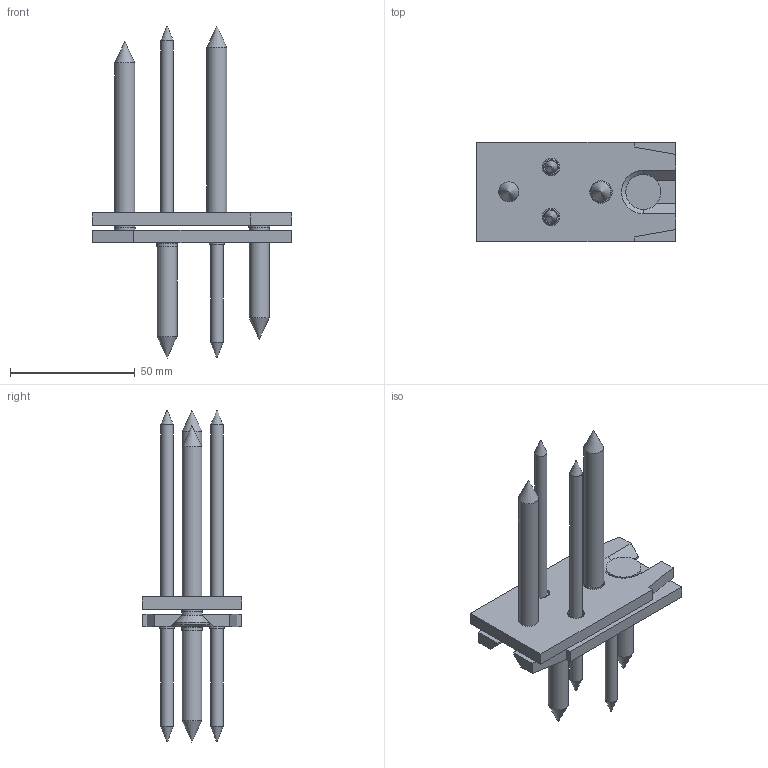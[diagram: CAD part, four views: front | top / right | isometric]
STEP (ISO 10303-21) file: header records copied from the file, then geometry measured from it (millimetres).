
FILE_DESCRIPTION(/* description */ ('Unknown'),/* implementation_level */ '2;1');
FILE_NAME(/* name */ 'RICON Edelstahl_80x40_EA',/* time_stamp */ '2022-02-08T10:42:40+01:00',/* author */ ('Unknown'),/* organization */ ('Unknown'),/* preprocessor_version */ 'ST-DEVELOPER v16.7',/* originating_system */ 'Solid Edge',/* authorisation */ 'Unknown');
FILE_SCHEMA (('AUTOMOTIVE_DESIGN {1 0 10303 214 3 1 1}'));
Length unit declared in the file: millimetre
Products named in the file (6): RICON_40x80_zusammenbau_mit Fase; RICON_40x80_mit Fase; SK_Schraube_5x50; SK_Schraube_8x50; SK_Schraube_5x80; SK_Schraube_8x80
Assembly tree (10 placements, depth 2):
  RICON_40x80_zusammenbau_mit Fase
    RICON_40x80_mit Fase  x2
    SK_Schraube_5x50  x2
    SK_Schraube_8x50  x2
    SK_Schraube_5x80  x2
    SK_Schraube_8x80  x2
Bounding box: 80 x 40 x 133.25 mm (x, y, z)
Volume: 43593.8 mm3; surface area: 25835.2 mm2
Topology: 10 solids, 10 shells, 108 faces, 232 edges, 148 vertices
Faces by surface type: plane 50, cylinder 34, cone 24
Full cylindrical faces by diameter (mm): 5 x4, 6 x4, 7 x4, 8 x6, 8.3 x4, 9.1 x2, 10 x2, 10.2 x2, 14 x4
Entity records: 1462 total; most frequent: DIRECTION 250, CARTESIAN_POINT 212, ORIENTED_EDGE 160, AXIS2_PLACEMENT_3D 105, FACE_BOUND 93, EDGE_LOOP 91, EDGE_CURVE 80, VERTEX_POINT 67
